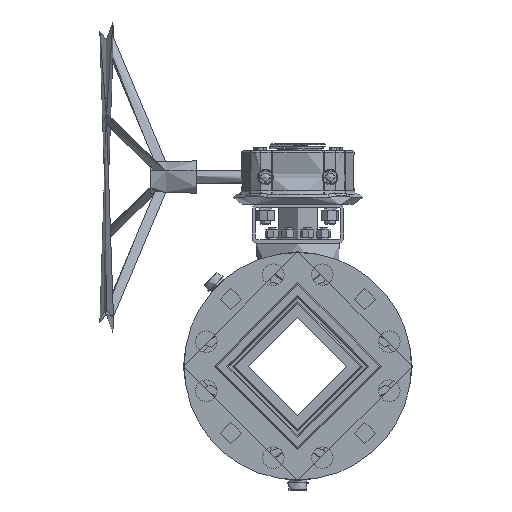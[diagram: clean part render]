
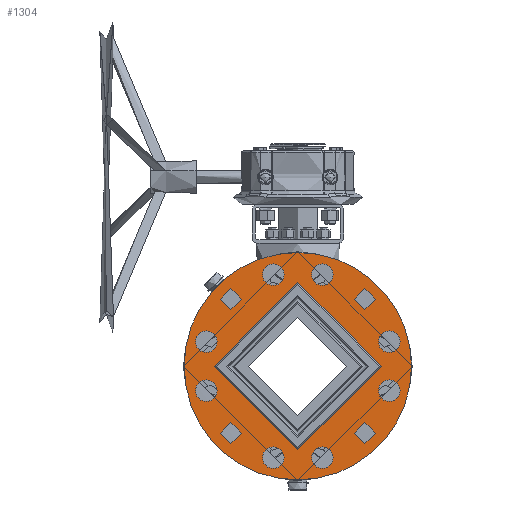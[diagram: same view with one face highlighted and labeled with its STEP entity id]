
A CAD part, left-side view. The second image highlights one B-rep face of the part: STEP entity #1304.
In plain terms, the highlighted planar face has unit normal (-1, 0, 0).
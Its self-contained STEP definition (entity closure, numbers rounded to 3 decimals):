
#1304=ADVANCED_FACE('',(#25254,#25256,#25258,#25260,#25262,#25264,#25266,#25268,
#25270,#25272,#25274,#25276,#25278,#25280),#25282,.T.);
#25254=FACE_BOUND('',#25255,.T.);
#25255=EDGE_LOOP('',(#34737));
#25256=FACE_BOUND('',#25257,.T.);
#25257=EDGE_LOOP('',(#34738));
#25258=FACE_BOUND('',#25259,.T.);
#25259=EDGE_LOOP('',(#34739));
#25260=FACE_BOUND('',#25261,.T.);
#25261=EDGE_LOOP('',(#34740));
#25262=FACE_BOUND('',#25263,.T.);
#25263=EDGE_LOOP('',(#34741));
#25264=FACE_BOUND('',#25265,.T.);
#25265=EDGE_LOOP('',(#34742));
#25266=FACE_BOUND('',#25267,.T.);
#25267=EDGE_LOOP('',(#34743));
#25268=FACE_BOUND('',#25269,.T.);
#25269=EDGE_LOOP('',(#34744));
#25270=FACE_BOUND('',#25271,.T.);
#25271=EDGE_LOOP('',(#34745));
#25272=FACE_BOUND('',#25273,.T.);
#25273=EDGE_LOOP('',(#34746));
#25274=FACE_BOUND('',#25275,.T.);
#25275=EDGE_LOOP('',(#34747));
#25276=FACE_BOUND('',#25277,.T.);
#25277=EDGE_LOOP('',(#34748));
#25278=FACE_BOUND('',#25279,.T.);
#25279=EDGE_LOOP('',(#34749));
#25280=FACE_OUTER_BOUND('',#25281,.T.);
#25281=EDGE_LOOP('',(#34750));
#25282=PLANE('',#25283);
#25283=AXIS2_PLACEMENT_3D('',#25284,#25285,#25286);
#25284=CARTESIAN_POINT('',(-276.5,0.,-122.853));
#25285=DIRECTION('',(-1.,0.,0.));
#25286=DIRECTION('',(0.,0.,-1.));
#34737=ORIENTED_EDGE('',*,*,#62253,.T.);
#34738=ORIENTED_EDGE('',*,*,#62218,.T.);
#34739=ORIENTED_EDGE('',*,*,#62216,.T.);
#34740=ORIENTED_EDGE('',*,*,#62214,.T.);
#34741=ORIENTED_EDGE('',*,*,#62212,.T.);
#34742=ORIENTED_EDGE('',*,*,#62210,.T.);
#34743=ORIENTED_EDGE('',*,*,#62208,.T.);
#34744=ORIENTED_EDGE('',*,*,#62206,.T.);
#34745=ORIENTED_EDGE('',*,*,#62204,.T.);
#34746=ORIENTED_EDGE('',*,*,#62202,.T.);
#34747=ORIENTED_EDGE('',*,*,#62200,.T.);
#34748=ORIENTED_EDGE('',*,*,#62198,.T.);
#34749=ORIENTED_EDGE('',*,*,#62196,.T.);
#34750=ORIENTED_EDGE('',*,*,#62254,.F.);
#62196=EDGE_CURVE('',#66945,#66945,#66947,.T.);
#62198=EDGE_CURVE('',#66948,#66948,#66950,.T.);
#62200=EDGE_CURVE('',#66951,#66951,#66953,.T.);
#62202=EDGE_CURVE('',#66954,#66954,#66956,.T.);
#62204=EDGE_CURVE('',#66957,#66957,#66959,.T.);
#62206=EDGE_CURVE('',#66960,#66960,#66962,.T.);
#62208=EDGE_CURVE('',#66963,#66963,#66965,.T.);
#62210=EDGE_CURVE('',#66966,#66966,#66968,.T.);
#62212=EDGE_CURVE('',#66969,#66969,#66971,.T.);
#62214=EDGE_CURVE('',#66972,#66972,#66974,.T.);
#62216=EDGE_CURVE('',#66975,#66975,#66977,.T.);
#62218=EDGE_CURVE('',#66978,#66978,#66980,.T.);
#62253=EDGE_CURVE('',#67032,#67032,#67033,.T.);
#62254=EDGE_CURVE('',#67034,#67034,#67035,.T.);
#66945=VERTEX_POINT('',#92536);
#66947=CIRCLE('',#92540,16.5);
#66948=VERTEX_POINT('',#92544);
#66950=CIRCLE('',#92548,16.5);
#66951=VERTEX_POINT('',#92552);
#66953=CIRCLE('',#92556,16.5);
#66954=VERTEX_POINT('',#92560);
#66956=CIRCLE('',#92564,16.5);
#66957=VERTEX_POINT('',#92568);
#66959=CIRCLE('',#92572,16.5);
#66960=VERTEX_POINT('',#92576);
#66962=CIRCLE('',#92580,16.5);
#66963=VERTEX_POINT('',#92584);
#66965=CIRCLE('',#92588,16.5);
#66966=VERTEX_POINT('',#92592);
#66968=CIRCLE('',#92596,16.5);
#66969=VERTEX_POINT('',#92600);
#66971=CIRCLE('',#92604,16.5);
#66972=VERTEX_POINT('',#92608);
#66974=CIRCLE('',#92612,16.5);
#66975=VERTEX_POINT('',#92616);
#66977=CIRCLE('',#92620,16.5);
#66978=VERTEX_POINT('',#92624);
#66980=CIRCLE('',#92628,16.5);
#67032=VERTEX_POINT('',#92768);
#67033=CIRCLE('',#92769,128.);
#67034=VERTEX_POINT('',#92773);
#67035=CIRCLE('',#92774,174.);
#92536=CARTESIAN_POINT('',(-276.5,-37.529,33.707));
#92540=AXIS2_PLACEMENT_3D('',#92541,#92542,#92543);
#92541=CARTESIAN_POINT('',(-276.5,-37.529,17.207));
#92542=DIRECTION('',(1.,-0.,-0.));
#92543=DIRECTION('',(-0.,-0.,1.));
#92544=CARTESIAN_POINT('',(-276.5,-102.53,-3.822));
#92548=AXIS2_PLACEMENT_3D('',#92549,#92550,#92551);
#92549=CARTESIAN_POINT('',(-276.5,-102.53,-20.322));
#92550=DIRECTION('',(1.,-0.,-0.));
#92551=DIRECTION('',(-0.,-0.,1.));
#92552=CARTESIAN_POINT('',(-276.5,-140.059,-68.824));
#92556=AXIS2_PLACEMENT_3D('',#92557,#92558,#92559);
#92557=CARTESIAN_POINT('',(-276.5,-140.059,-85.324));
#92558=DIRECTION('',(1.,-0.,-0.));
#92559=DIRECTION('',(-0.,-0.,1.));
#92560=CARTESIAN_POINT('',(-276.5,-140.059,-143.881));
#92564=AXIS2_PLACEMENT_3D('',#92565,#92566,#92567);
#92565=CARTESIAN_POINT('',(-276.5,-140.059,-160.381));
#92566=DIRECTION('',(1.,-0.,-0.));
#92567=DIRECTION('',(-0.,-0.,1.));
#92568=CARTESIAN_POINT('',(-276.5,-37.529,-246.412));
#92572=AXIS2_PLACEMENT_3D('',#92573,#92574,#92575);
#92573=CARTESIAN_POINT('',(-276.5,-37.529,-262.912));
#92574=DIRECTION('',(1.,-0.,-0.));
#92575=DIRECTION('',(-0.,-0.,1.));
#92576=CARTESIAN_POINT('',(-276.5,37.529,-246.412));
#92580=AXIS2_PLACEMENT_3D('',#92581,#92582,#92583);
#92581=CARTESIAN_POINT('',(-276.5,37.529,-262.912));
#92582=DIRECTION('',(1.,-0.,-0.));
#92583=DIRECTION('',(-0.,-0.,1.));
#92584=CARTESIAN_POINT('',(-276.5,102.53,-208.883));
#92588=AXIS2_PLACEMENT_3D('',#92589,#92590,#92591);
#92589=CARTESIAN_POINT('',(-276.5,102.53,-225.383));
#92590=DIRECTION('',(1.,-0.,-0.));
#92591=DIRECTION('',(-0.,-0.,1.));
#92592=CARTESIAN_POINT('',(-276.5,140.059,-143.881));
#92596=AXIS2_PLACEMENT_3D('',#92597,#92598,#92599);
#92597=CARTESIAN_POINT('',(-276.5,140.059,-160.381));
#92598=DIRECTION('',(1.,-0.,-0.));
#92599=DIRECTION('',(-0.,-0.,1.));
#92600=CARTESIAN_POINT('',(-276.5,140.059,-68.824));
#92604=AXIS2_PLACEMENT_3D('',#92605,#92606,#92607);
#92605=CARTESIAN_POINT('',(-276.5,140.059,-85.324));
#92606=DIRECTION('',(1.,-0.,-0.));
#92607=DIRECTION('',(-0.,-0.,1.));
#92608=CARTESIAN_POINT('',(-276.5,102.53,-3.822));
#92612=AXIS2_PLACEMENT_3D('',#92613,#92614,#92615);
#92613=CARTESIAN_POINT('',(-276.5,102.53,-20.322));
#92614=DIRECTION('',(1.,-0.,-0.));
#92615=DIRECTION('',(-0.,-0.,1.));
#92616=CARTESIAN_POINT('',(-276.5,37.529,33.707));
#92620=AXIS2_PLACEMENT_3D('',#92621,#92622,#92623);
#92621=CARTESIAN_POINT('',(-276.5,37.529,17.207));
#92622=DIRECTION('',(1.,-0.,-0.));
#92623=DIRECTION('',(-0.,-0.,1.));
#92624=CARTESIAN_POINT('',(-276.5,-102.53,-208.883));
#92628=AXIS2_PLACEMENT_3D('',#92629,#92630,#92631);
#92629=CARTESIAN_POINT('',(-276.5,-102.53,-225.383));
#92630=DIRECTION('',(1.,-0.,-0.));
#92631=DIRECTION('',(-0.,-0.,1.));
#92768=CARTESIAN_POINT('',(-276.5,0.,-250.853));
#92769=AXIS2_PLACEMENT_3D('',#92770,#92771,#92772);
#92770=CARTESIAN_POINT('',(-276.5,0.,-122.853));
#92771=DIRECTION('',(1.,-0.,-0.));
#92772=DIRECTION('',(0.,0.,-1.));
#92773=CARTESIAN_POINT('',(-276.5,0.,-296.853));
#92774=AXIS2_PLACEMENT_3D('',#92775,#92776,#92777);
#92775=CARTESIAN_POINT('',(-276.5,0.,-122.853));
#92776=DIRECTION('',(1.,-0.,-0.));
#92777=DIRECTION('',(0.,0.,-1.));
